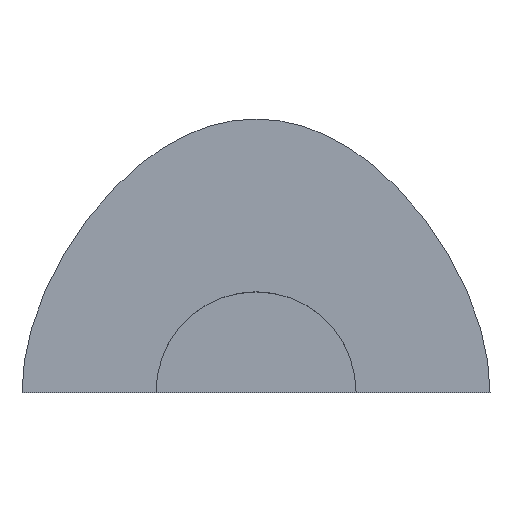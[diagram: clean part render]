
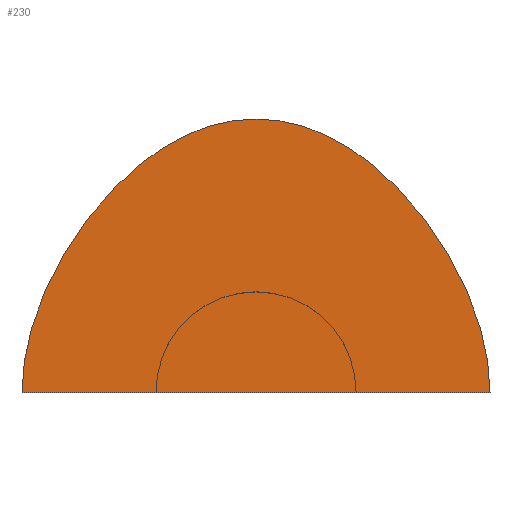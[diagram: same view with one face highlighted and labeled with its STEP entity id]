
A CAD part, top view. The second image highlights one B-rep face of the part: STEP entity #230.
In plain terms, the highlighted planar face has unit normal (0, 0, 1).
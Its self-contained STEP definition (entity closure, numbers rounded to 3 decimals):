
#193=CARTESIAN_POINT('Axis2P3D Location',(0.,55.651,0.)) ;
#198=CARTESIAN_POINT('Line Origine',(0.,0.,0.)) ;
#202=CARTESIAN_POINT('Vertex',(-117.,0.,0.)) ;
#204=CARTESIAN_POINT('Vertex',(117.,0.,0.)) ;
#208=CARTESIAN_POINT('Control Point',(0.,137.,0.)) ;
#209=CARTESIAN_POINT('Control Point',(36.032,137.,0.)) ;
#210=CARTESIAN_POINT('Control Point',(69.786,116.262,0.)) ;
#211=CARTESIAN_POINT('Control Point',(101.262,74.786,0.)) ;
#212=CARTESIAN_POINT('Control Point',(117.,36.032,0.)) ;
#213=CARTESIAN_POINT('Control Point',(117.,0.,0.)) ;
#214=CARTESIAN_POINT('Vertex',(0.,137.,0.)) ;
#218=CARTESIAN_POINT('Control Point',(0.,137.,0.)) ;
#219=CARTESIAN_POINT('Control Point',(-36.032,137.,0.)) ;
#220=CARTESIAN_POINT('Control Point',(-69.786,116.262,0.)) ;
#221=CARTESIAN_POINT('Control Point',(-101.262,74.786,0.)) ;
#222=CARTESIAN_POINT('Control Point',(-117.,36.032,0.)) ;
#223=CARTESIAN_POINT('Control Point',(-117.,0.,0.)) ;
#194=DIRECTION('Axis2P3D Direction',(0.,0.,1.)) ;
#195=DIRECTION('Axis2P3D XDirection',(1.,0.,0.)) ;
#199=DIRECTION('Vector Direction',(1.,0.,0.)) ;
#196=AXIS2_PLACEMENT_3D('Plane Axis2P3D',#193,#194,#195) ;
#226=ORIENTED_EDGE('',*,*,#206,.T.) ;
#227=ORIENTED_EDGE('',*,*,#216,.T.) ;
#228=ORIENTED_EDGE('',*,*,#224,.T.) ;
#200=VECTOR('Line Direction',#199,1.) ;
#230=ADVANCED_FACE('Fill.1',(#229),#197,.T.) ;
#207=B_SPLINE_CURVE_WITH_KNOTS('',5,(#208,#209,#210,#211,#212,#213),.UNSPECIFIED.,.F.,.U.,(6,6),(0.,180.161),.UNSPECIFIED.) ;
#217=B_SPLINE_CURVE_WITH_KNOTS('',5,(#218,#219,#220,#221,#222,#223),.UNSPECIFIED.,.F.,.U.,(6,6),(0.,180.161),.UNSPECIFIED.) ;
#206=EDGE_CURVE('',#203,#205,#201,.T.) ;
#216=EDGE_CURVE('',#205,#215,#207,.F.) ;
#224=EDGE_CURVE('',#215,#203,#217,.T.) ;
#225=EDGE_LOOP('',(#226,#227,#228)) ;
#229=FACE_OUTER_BOUND('',#225,.T.) ;
#201=LINE('Line',#198,#200) ;
#197=PLANE('',#196) ;
#203=VERTEX_POINT('',#202) ;
#205=VERTEX_POINT('',#204) ;
#215=VERTEX_POINT('',#214) ;
